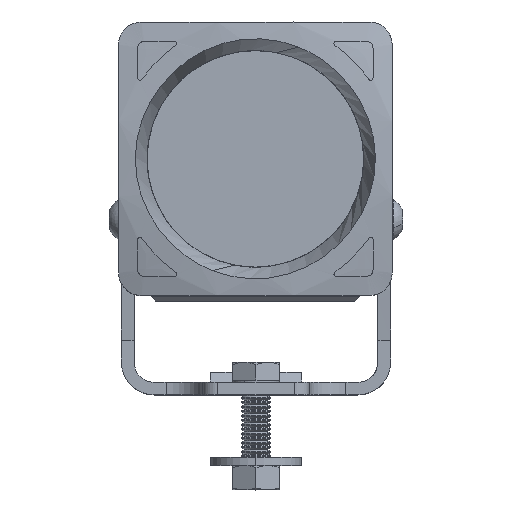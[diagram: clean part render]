
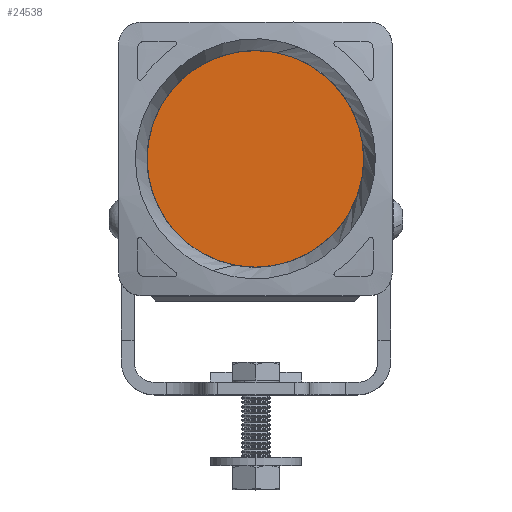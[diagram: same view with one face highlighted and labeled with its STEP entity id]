
A CAD part, top view. The second image highlights one B-rep face of the part: STEP entity #24538.
In plain terms, the highlighted planar face has unit normal (0, 0, 1) as drawn and (0, 1, 0) by its records, which use the part's own axes.
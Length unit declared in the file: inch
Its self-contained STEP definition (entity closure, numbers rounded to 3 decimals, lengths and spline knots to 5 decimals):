
#653 = CARTESIAN_POINT ( 'NONE',  ( 0., 3.15, 0. ) ) ;
#2947 = DIRECTION ( 'NONE',  ( 0., 0., 1. ) ) ;
#3283 = ORIENTED_EDGE ( 'NONE', *, *, #11418, .T. ) ;
#3705 = DIRECTION ( 'NONE',  ( 0., 1., 0. ) ) ;
#4105 = AXIS2_PLACEMENT_3D ( 'NONE', #26789, #13100, #29102 ) ;
#4558 = VERTEX_POINT ( 'NONE', #8504 ) ;
#4650 = VERTEX_POINT ( 'NONE', #15304 ) ;
#5519 = EDGE_CURVE ( 'NONE', #4558, #4650, #28588, .T. ) ;
#8504 = CARTESIAN_POINT ( 'NONE',  ( 0., 3.15, 1.1875 ) ) ;
#11418 = EDGE_CURVE ( 'NONE', #4650, #4558, #22783, .T. ) ;
#13008 = PLANE ( 'NONE',  #4105 ) ;
#13100 = DIRECTION ( 'NONE',  ( 0., 1., 0. ) ) ;
#15304 = CARTESIAN_POINT ( 'NONE',  ( 0., 3.15, -1.1875 ) ) ;
#16634 = DIRECTION ( 'NONE',  ( 0., 1., 0. ) ) ;
#17367 = CARTESIAN_POINT ( 'NONE',  ( 0., 3.15, 0. ) ) ;
#17551 = AXIS2_PLACEMENT_3D ( 'NONE', #17367, #3705, #19681 ) ;
#19681 = DIRECTION ( 'NONE',  ( 0., 0., 1. ) ) ;
#20069 = EDGE_LOOP ( 'NONE', ( #23515, #3283 ) ) ;
#22783 = CIRCLE ( 'NONE', #17551, 1.1875 ) ;
#23515 = ORIENTED_EDGE ( 'NONE', *, *, #5519, .T. ) ;
#24538 = ADVANCED_FACE ( 'NONE', ( #24783 ), #13008, .T. ) ;
#24783 = FACE_OUTER_BOUND ( 'NONE', #20069, .T. ) ;
#26549 = AXIS2_PLACEMENT_3D ( 'NONE', #653, #16634, #2947 ) ;
#26789 = CARTESIAN_POINT ( 'NONE',  ( 0., 3.15, 0. ) ) ;
#28588 = CIRCLE ( 'NONE', #26549, 1.1875 ) ;
#29102 = DIRECTION ( 'NONE',  ( 0., 0., 1. ) ) ;
